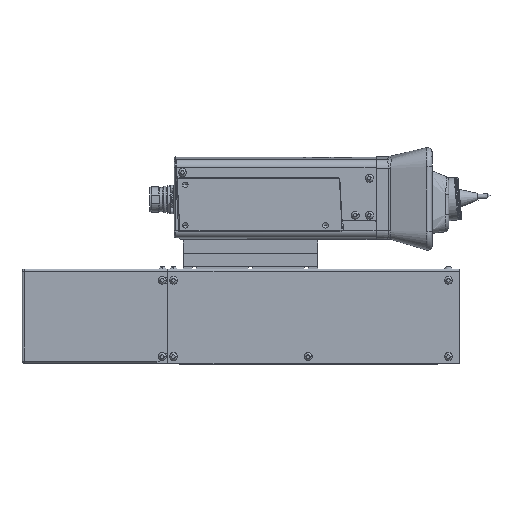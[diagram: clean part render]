
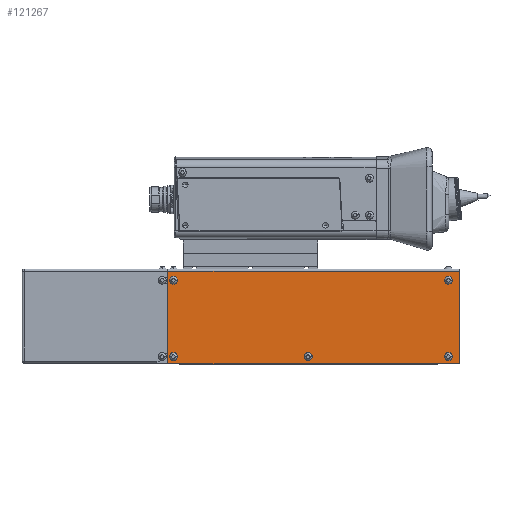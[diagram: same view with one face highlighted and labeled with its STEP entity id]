
A CAD part, left-side view. The second image highlights one B-rep face of the part: STEP entity #121267.
In plain terms, the highlighted planar face has unit normal (-1, 0, 0).
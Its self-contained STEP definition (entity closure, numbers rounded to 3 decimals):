
#35370 = EDGE_CURVE ( 'NONE', #105013, #123108, #143771, .T. ) ;
#35436 = ORIENTED_EDGE ( 'NONE', *, *, #105900, .T. ) ;
#35438 = ORIENTED_EDGE ( 'NONE', *, *, #122738, .T. ) ;
#35565 = ORIENTED_EDGE ( 'NONE', *, *, #35370, .F. ) ;
#50257 = VERTEX_POINT ( 'NONE', #65286 ) ;
#50294 = EDGE_CURVE ( 'NONE', #50397, #50296, #65490, .T. ) ;
#50296 = VERTEX_POINT ( 'NONE', #65484 ) ;
#50327 = EDGE_CURVE ( 'NONE', #50257, #50328, #65532, .T. ) ;
#50328 = VERTEX_POINT ( 'NONE', #65533 ) ;
#50397 = VERTEX_POINT ( 'NONE', #65825 ) ;
#50526 = VERTEX_POINT ( 'NONE', #74374 ) ;
#50533 = EDGE_CURVE ( 'NONE', #50526, #50534, #74446, .T. ) ;
#50534 = VERTEX_POINT ( 'NONE', #74498 ) ;
#50661 = VERTEX_POINT ( 'NONE', #76126 ) ;
#50664 = EDGE_CURVE ( 'NONE', #50661, #50702, #76125, .T. ) ;
#50702 = VERTEX_POINT ( 'NONE', #76760 ) ;
#51582 = VERTEX_POINT ( 'NONE', #80139 ) ;
#51586 = EDGE_CURVE ( 'NONE', #51582, #51588, #80142, .T. ) ;
#51588 = VERTEX_POINT ( 'NONE', #80243 ) ;
#65286 = CARTESIAN_POINT ( 'NONE',  ( -61.5, -13., -13. ) ) ;
#65419 = CARTESIAN_POINT ( 'NONE',  ( -61.5, -10., 55. ) ) ;
#65484 = CARTESIAN_POINT ( 'NONE',  ( -61.5, -7., 55. ) ) ;
#65485 = DIRECTION ( 'NONE',  ( 0., 1., 0. ) ) ;
#65487 = DIRECTION ( 'NONE',  ( -1., 0., 0. ) ) ;
#65489 = AXIS2_PLACEMENT_3D ( 'NONE', #65419, #65487, #65485 ) ;
#65490 = CIRCLE ( 'NONE', #65489, 3. ) ;
#65529 = DIRECTION ( 'NONE',  ( 0., -1., 0. ) ) ;
#65530 = DIRECTION ( 'NONE',  ( -1., 0., 0. ) ) ;
#65531 = AXIS2_PLACEMENT_3D ( 'NONE', #65537, #65530, #65529 ) ;
#65532 = CIRCLE ( 'NONE', #65531, 3. ) ;
#65533 = CARTESIAN_POINT ( 'NONE',  ( -61.5, -7., -13. ) ) ;
#65537 = CARTESIAN_POINT ( 'NONE',  ( -61.5, -10., -13. ) ) ;
#65825 = CARTESIAN_POINT ( 'NONE',  ( -61.5, -13., 55. ) ) ;
#74374 = CARTESIAN_POINT ( 'NONE',  ( -61.5, 232., 55. ) ) ;
#74445 = AXIS2_PLACEMENT_3D ( 'NONE', #74501, #74500, #74499 ) ;
#74446 = CIRCLE ( 'NONE', #74445, 3. ) ;
#74498 = CARTESIAN_POINT ( 'NONE',  ( -61.5, 238., 55. ) ) ;
#74499 = DIRECTION ( 'NONE',  ( 0., -1., 0. ) ) ;
#74500 = DIRECTION ( 'NONE',  ( -1., 0., 0. ) ) ;
#74501 = CARTESIAN_POINT ( 'NONE',  ( -61.5, 235., 55. ) ) ;
#76121 = DIRECTION ( 'NONE',  ( 0., 1., 0. ) ) ;
#76122 = DIRECTION ( 'NONE',  ( -1., 0., 0. ) ) ;
#76123 = CARTESIAN_POINT ( 'NONE',  ( -61.5, 115., -13. ) ) ;
#76124 = AXIS2_PLACEMENT_3D ( 'NONE', #76123, #76122, #76121 ) ;
#76125 = CIRCLE ( 'NONE', #76124, 3. ) ;
#76126 = CARTESIAN_POINT ( 'NONE',  ( -61.5, 112., -13. ) ) ;
#76760 = CARTESIAN_POINT ( 'NONE',  ( -61.5, 118., -13. ) ) ;
#79095 = EDGE_LOOP ( 'NONE', ( #87239, #125084 ) ) ;
#80139 = CARTESIAN_POINT ( 'NONE',  ( -61.5, 232., -13. ) ) ;
#80141 = AXIS2_PLACEMENT_3D ( 'NONE', #80246, #80245, #80244 ) ;
#80142 = CIRCLE ( 'NONE', #80141, 3. ) ;
#80243 = CARTESIAN_POINT ( 'NONE',  ( -61.5, 238., -13. ) ) ;
#80244 = DIRECTION ( 'NONE',  ( 0., 1., 0. ) ) ;
#80245 = DIRECTION ( 'NONE',  ( -1., 0., 0. ) ) ;
#80246 = CARTESIAN_POINT ( 'NONE',  ( -61.5, 235., -13. ) ) ;
#87239 = ORIENTED_EDGE ( 'NONE', *, *, #111042, .F. ) ;
#96368 = CARTESIAN_POINT ( 'NONE',  ( -61.5, 240., -19.5 ) ) ;
#96410 = DIRECTION ( 'NONE',  ( 0., -1., 0. ) ) ;
#96411 = VECTOR ( 'NONE', #96410, 1000. ) ;
#96412 = CARTESIAN_POINT ( 'NONE',  ( -61.5, -20., -19.5 ) ) ;
#96413 = LINE ( 'NONE', #96412, #96411 ) ;
#96779 = DIRECTION ( 'NONE',  ( 0., -1., 0. ) ) ;
#96780 = DIRECTION ( 'NONE',  ( -1., 0., 0. ) ) ;
#96781 = CARTESIAN_POINT ( 'NONE',  ( -61.5, 235., 55. ) ) ;
#96782 = AXIS2_PLACEMENT_3D ( 'NONE', #96781, #96780, #96779 ) ;
#96783 = CIRCLE ( 'NONE', #96782, 3. ) ;
#96840 = CARTESIAN_POINT ( 'NONE',  ( -61.5, -20., -19.5 ) ) ;
#97515 = FACE_BOUND ( 'NONE', #117276, .T. ) ;
#97516 = FACE_BOUND ( 'NONE', #105945, .T. ) ;
#97571 = DIRECTION ( 'NONE',  ( 0., 1., 0. ) ) ;
#97572 = DIRECTION ( 'NONE',  ( -1., 0., 0. ) ) ;
#97573 = AXIS2_PLACEMENT_3D ( 'NONE', #97575, #97572, #97571 ) ;
#97575 = CARTESIAN_POINT ( 'NONE',  ( -61.5, -20., -19.5 ) ) ;
#97576 = PLANE ( 'NONE',  #97573 ) ;
#97577 = FACE_OUTER_BOUND ( 'NONE', #124905, .T. ) ;
#97578 = FACE_BOUND ( 'NONE', #124575, .T. ) ;
#97579 = FACE_BOUND ( 'NONE', #79095, .T. ) ;
#97580 = FACE_BOUND ( 'NONE', #125387, .T. ) ;
#97586 = DIRECTION ( 'NONE',  ( 0., 1., 0. ) ) ;
#97587 = DIRECTION ( 'NONE',  ( -1., 0., 0. ) ) ;
#97588 = CARTESIAN_POINT ( 'NONE',  ( -61.5, 235., -13. ) ) ;
#97589 = AXIS2_PLACEMENT_3D ( 'NONE', #97588, #97587, #97586 ) ;
#97590 = CIRCLE ( 'NONE', #97589, 3. ) ;
#97679 = CARTESIAN_POINT ( 'NONE',  ( -61.5, -10., 55. ) ) ;
#97701 = DIRECTION ( 'NONE',  ( 0., 0., 1. ) ) ;
#97702 = VECTOR ( 'NONE', #97701, 1000. ) ;
#97703 = CARTESIAN_POINT ( 'NONE',  ( -61.5, -20., -19.5 ) ) ;
#97704 = LINE ( 'NONE', #97703, #97702 ) ;
#97720 = CARTESIAN_POINT ( 'NONE',  ( -61.5, 240., 63. ) ) ;
#97735 = DIRECTION ( 'NONE',  ( 0., 1., 0. ) ) ;
#97736 = DIRECTION ( 'NONE',  ( -1., 0., 0. ) ) ;
#97737 = AXIS2_PLACEMENT_3D ( 'NONE', #97679, #97736, #97735 ) ;
#97738 = CIRCLE ( 'NONE', #97737, 3. ) ;
#97895 = CIRCLE ( 'NONE', #97967, 3. ) ;
#97896 = CARTESIAN_POINT ( 'NONE',  ( -61.5, -20., 63. ) ) ;
#97910 = DIRECTION ( 'NONE',  ( 0., -1., 0. ) ) ;
#97911 = VECTOR ( 'NONE', #97910, 1000. ) ;
#97913 = CARTESIAN_POINT ( 'NONE',  ( -61.5, -20., 63. ) ) ;
#97915 = LINE ( 'NONE', #97913, #97911 ) ;
#97964 = DIRECTION ( 'NONE',  ( 0., -1., 0. ) ) ;
#97965 = DIRECTION ( 'NONE',  ( -1., 0., 0. ) ) ;
#97966 = CARTESIAN_POINT ( 'NONE',  ( -61.5, -10., -13. ) ) ;
#97967 = AXIS2_PLACEMENT_3D ( 'NONE', #97966, #97965, #97964 ) ;
#98024 = DIRECTION ( 'NONE',  ( 0., 1., 0. ) ) ;
#98025 = DIRECTION ( 'NONE',  ( -1., 0., 0. ) ) ;
#98026 = CARTESIAN_POINT ( 'NONE',  ( -61.5, 115., -13. ) ) ;
#98027 = AXIS2_PLACEMENT_3D ( 'NONE', #98026, #98025, #98024 ) ;
#98028 = CIRCLE ( 'NONE', #98027, 3. ) ;
#105013 = VERTEX_POINT ( 'NONE', #96368 ) ;
#105900 = EDGE_CURVE ( 'NONE', #105013, #111754, #96413, .T. ) ;
#105945 = EDGE_LOOP ( 'NONE', ( #124982, #120676 ) ) ;
#111042 = EDGE_CURVE ( 'NONE', #50534, #50526, #96783, .T. ) ;
#111754 = VERTEX_POINT ( 'NONE', #96840 ) ;
#117276 = EDGE_LOOP ( 'NONE', ( #122925, #122932 ) ) ;
#120265 = ORIENTED_EDGE ( 'NONE', *, *, #121763, .F. ) ;
#120676 = ORIENTED_EDGE ( 'NONE', *, *, #50327, .F. ) ;
#121267 = ADVANCED_FACE ( 'NONE', ( #97516, #97515, #97580, #97579, #97578, #97577 ), #97576, .T. ) ;
#121763 = EDGE_CURVE ( 'NONE', #51588, #51582, #97590, .T. ) ;
#122738 = EDGE_CURVE ( 'NONE', #111754, #125044, #97704, .T. ) ;
#122925 = ORIENTED_EDGE ( 'NONE', *, *, #122987, .F. ) ;
#122932 = ORIENTED_EDGE ( 'NONE', *, *, #50294, .F. ) ;
#122974 = ORIENTED_EDGE ( 'NONE', *, *, #125744, .F. ) ;
#122987 = EDGE_CURVE ( 'NONE', #50296, #50397, #97738, .T. ) ;
#123108 = VERTEX_POINT ( 'NONE', #97720 ) ;
#124376 = ORIENTED_EDGE ( 'NONE', *, *, #51586, .F. ) ;
#124575 = EDGE_LOOP ( 'NONE', ( #120265, #124376 ) ) ;
#124905 = EDGE_LOOP ( 'NONE', ( #124984, #35565, #35436, #35438 ) ) ;
#124972 = EDGE_CURVE ( 'NONE', #123108, #125044, #97915, .T. ) ;
#124982 = ORIENTED_EDGE ( 'NONE', *, *, #125091, .F. ) ;
#124984 = ORIENTED_EDGE ( 'NONE', *, *, #124972, .F. ) ;
#125044 = VERTEX_POINT ( 'NONE', #97896 ) ;
#125084 = ORIENTED_EDGE ( 'NONE', *, *, #50533, .F. ) ;
#125091 = EDGE_CURVE ( 'NONE', #50328, #50257, #97895, .T. ) ;
#125281 = ORIENTED_EDGE ( 'NONE', *, *, #50664, .F. ) ;
#125387 = EDGE_LOOP ( 'NONE', ( #122974, #125281 ) ) ;
#125744 = EDGE_CURVE ( 'NONE', #50702, #50661, #98028, .T. ) ;
#143768 = DIRECTION ( 'NONE',  ( 0., 0., 1. ) ) ;
#143769 = VECTOR ( 'NONE', #143768, 1000. ) ;
#143770 = CARTESIAN_POINT ( 'NONE',  ( -61.5, 240., -19.5 ) ) ;
#143771 = LINE ( 'NONE', #143770, #143769 ) ;
